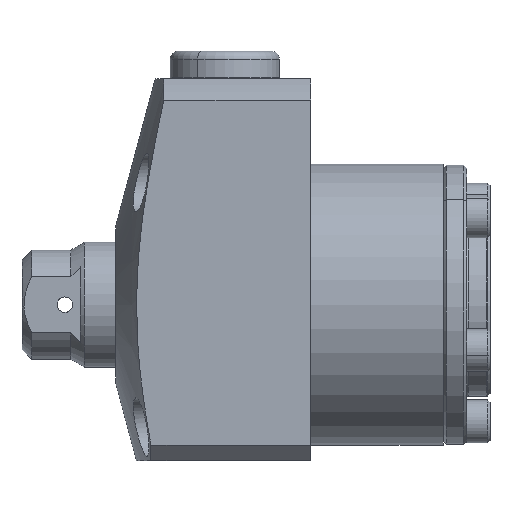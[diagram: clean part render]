
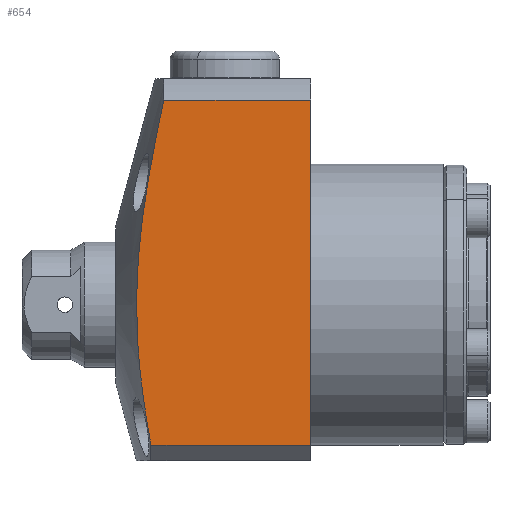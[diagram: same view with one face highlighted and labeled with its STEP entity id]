
A CAD part, left-side view. The second image highlights one B-rep face of the part: STEP entity #654.
In plain terms, the highlighted planar face has unit normal (-1, 0, 0).
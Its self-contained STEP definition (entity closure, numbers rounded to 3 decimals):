
#238 = CARTESIAN_POINT ( 'NONE',  ( -20., 25., 29. ) ) ;
#246 = FACE_OUTER_BOUND ( 'NONE', #1283, .T. ) ;
#247 = PLANE ( 'NONE',  #2987 ) ;
#249 = DIRECTION ( 'NONE',  ( 1., 0., 0. ) ) ;
#250 = DIRECTION ( 'NONE',  ( 0., 0., -1. ) ) ;
#654 = ADVANCED_FACE ( 'NONE', ( #246 ), #247, .F. ) ;
#822 = VECTOR ( 'NONE', #5270, 1000. ) ;
#1283 = EDGE_LOOP ( 'NONE', ( #3894, #3895, #3896, #3897 ) ) ;
#1394 = VERTEX_POINT ( 'NONE', #4485 ) ;
#1398 = VERTEX_POINT ( 'NONE', #4489 ) ;
#1494 = VERTEX_POINT ( 'NONE', #4585 ) ;
#1497 = VERTEX_POINT ( 'NONE', #4588 ) ;
#2164 = B_SPLINE_CURVE_WITH_KNOTS ( 'NONE', 3,
 ( #5370, #5371, #5376, #5377, #5378, #5379, #5380, #5381, #5382, #5383, #5384, #5385, #5386, #5387, #5388, #5389, #5390, #5391, #5392, #5393 ),
 .UNSPECIFIED., .F., .F.,
 ( 4, 2, 2, 2, 2, 2, 2, 2, 2, 4 ),
 ( 0.022, 0.028, 0.033, 0.039, 0.045, 0.05, 0.053, 0.056, 0.061, 0.067 ),
 .UNSPECIFIED. ) ;
#2213 = EDGE_CURVE ( 'NONE', #1398, #1497, #3490, .T. ) ;
#2214 = EDGE_CURVE ( 'NONE', #1398, #1494, #3489, .T. ) ;
#2229 = EDGE_CURVE ( 'NONE', #1394, #1494, #5268, .T. ) ;
#2248 = VECTOR ( 'NONE', #3495, 1000. ) ;
#2302 = EDGE_CURVE ( 'NONE', #1394, #1497, #2164, .T. ) ;
#2987 = AXIS2_PLACEMENT_3D ( 'NONE', #238, #249, #250 ) ;
#2996 = VECTOR ( 'NONE', #3497, 1000. ) ;
#3456 = CARTESIAN_POINT ( 'NONE',  ( -20., 0., 26.249 ) ) ;
#3489 = LINE ( 'NONE', #3496, #2996 ) ;
#3490 = LINE ( 'NONE', #3456, #2248 ) ;
#3495 = DIRECTION ( 'NONE',  ( 0., 1., 0. ) ) ;
#3496 = CARTESIAN_POINT ( 'NONE',  ( -20., 0., -20. ) ) ;
#3497 = DIRECTION ( 'NONE',  ( 0., 0., -1. ) ) ;
#3894 = ORIENTED_EDGE ( 'NONE', *, *, #2302, .F. ) ;
#3895 = ORIENTED_EDGE ( 'NONE', *, *, #2229, .T. ) ;
#3896 = ORIENTED_EDGE ( 'NONE', *, *, #2214, .F. ) ;
#3897 = ORIENTED_EDGE ( 'NONE', *, *, #2213, .T. ) ;
#4485 = CARTESIAN_POINT ( 'NONE',  ( -20., 20.47, -18. ) ) ;
#4489 = CARTESIAN_POINT ( 'NONE',  ( -20., 0., 26.249 ) ) ;
#4585 = CARTESIAN_POINT ( 'NONE',  ( -20., 0., -18. ) ) ;
#4588 = CARTESIAN_POINT ( 'NONE',  ( -20., 18.837, 26.249 ) ) ;
#5268 = LINE ( 'NONE', #5269, #822 ) ;
#5269 = CARTESIAN_POINT ( 'NONE',  ( -20., 25., -18. ) ) ;
#5270 = DIRECTION ( 'NONE',  ( 0., -1., 0. ) ) ;
#5370 = CARTESIAN_POINT ( 'NONE',  ( -20., 20.47, -18. ) ) ;
#5371 = CARTESIAN_POINT ( 'NONE',  ( -20., 20.799, -16.163 ) ) ;
#5376 = CARTESIAN_POINT ( 'NONE',  ( -20., 21.102, -14.319 ) ) ;
#5377 = CARTESIAN_POINT ( 'NONE',  ( -20., 21.625, -10.63 ) ) ;
#5378 = CARTESIAN_POINT ( 'NONE',  ( -20., 21.845, -8.784 ) ) ;
#5379 = CARTESIAN_POINT ( 'NONE',  ( -20., 22.169, -5.091 ) ) ;
#5380 = CARTESIAN_POINT ( 'NONE',  ( -20., 22.273, -3.242 ) ) ;
#5381 = CARTESIAN_POINT ( 'NONE',  ( -20., 22.342, 0.457 ) ) ;
#5382 = CARTESIAN_POINT ( 'NONE',  ( -20., 22.307, 2.309 ) ) ;
#5383 = CARTESIAN_POINT ( 'NONE',  ( -20., 22.105, 6.015 ) ) ;
#5384 = CARTESIAN_POINT ( 'NONE',  ( -20., 21.938, 7.87 ) ) ;
#5385 = CARTESIAN_POINT ( 'NONE',  ( -20., 21.612, 10.654 ) ) ;
#5386 = CARTESIAN_POINT ( 'NONE',  ( -20., 21.49, 11.582 ) ) ;
#5387 = CARTESIAN_POINT ( 'NONE',  ( -20., 21.228, 13.432 ) ) ;
#5388 = CARTESIAN_POINT ( 'NONE',  ( -20., 21.086, 14.354 ) ) ;
#5389 = CARTESIAN_POINT ( 'NONE',  ( -20., 20.637, 17.116 ) ) ;
#5390 = CARTESIAN_POINT ( 'NONE',  ( -20., 20.305, 18.949 ) ) ;
#5391 = CARTESIAN_POINT ( 'NONE',  ( -20., 19.599, 22.605 ) ) ;
#5392 = CARTESIAN_POINT ( 'NONE',  ( -20., 19.225, 24.429 ) ) ;
#5393 = CARTESIAN_POINT ( 'NONE',  ( -20., 18.837, 26.249 ) ) ;
